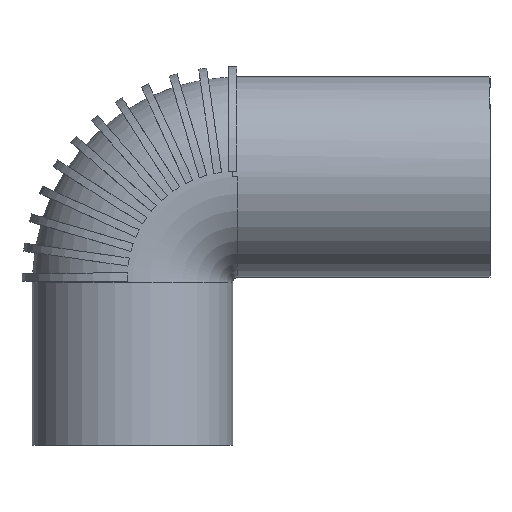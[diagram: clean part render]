
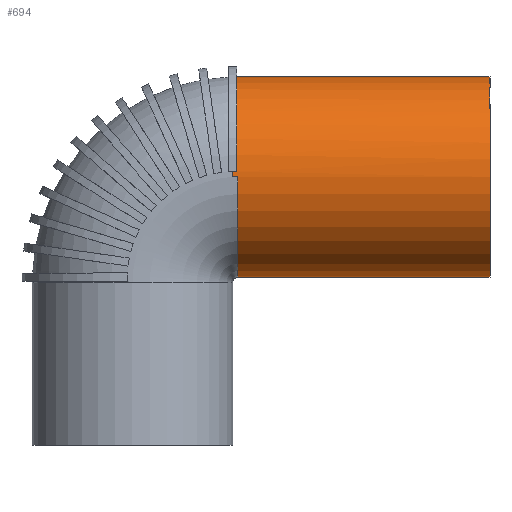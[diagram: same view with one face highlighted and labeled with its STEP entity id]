
A CAD part, top view. The second image highlights one B-rep face of the part: STEP entity #694.
In plain terms, the highlighted cylindrical face has radius 28 mm (diameter 56 mm), a full revolution.
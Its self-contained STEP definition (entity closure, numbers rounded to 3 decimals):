
#12=LINE($,#1410,#14);
#13=LINE($,#1414,#15);
#14=VECTOR($,#848,1.125);
#15=VECTOR($,#851,1.125);
#27=CYLINDRICAL_SURFACE($,#770,28.);
#75=B_SPLINE_CURVE_WITH_KNOTS($,3,(#1898,#1899,#1900,#1901,#1902,#1903),
 .UNSPECIFIED.,.F.,.F.,(4,2,4),(0.,0.139,0.15),
 .UNSPECIFIED.);
#76=B_SPLINE_CURVE_WITH_KNOTS($,3,(#1907,#1908,#1909,#1910,#1911,#1912),
 .UNSPECIFIED.,.F.,.F.,(4,2,4),(-0.011,0.,0.139),
 .UNSPECIFIED.);
#112=FACE_BOUND($,#212,.T.);
#166=FACE_OUTER_BOUND($,#211,.T.);
#211=EDGE_LOOP($,(#525));
#212=EDGE_LOOP($,(#526,#527,#528,#529,#530,#531,#532,#533));
#257=CIRCLE($,#739,28.);
#268=CIRCLE($,#771,28.);
#269=CIRCLE($,#772,28.);
#270=CIRCLE($,#773,28.);
#271=CIRCLE($,#774,28.);
#304=VERTEX_POINT($,#1407);
#305=VERTEX_POINT($,#1409);
#306=VERTEX_POINT($,#1411);
#307=VERTEX_POINT($,#1413);
#328=VERTEX_POINT($,#1893);
#329=VERTEX_POINT($,#1895);
#330=VERTEX_POINT($,#1897);
#331=VERTEX_POINT($,#1904);
#332=VERTEX_POINT($,#1906);
#368=EDGE_CURVE($,#305,#304,#12,.T.);
#370=EDGE_CURVE($,#307,#306,#13,.T.);
#372=EDGE_CURVE($,#306,#305,#257,.T.);
#413=EDGE_CURVE($,#328,#328,#268,.T.);
#414=EDGE_CURVE($,#329,#304,#269,.T.);
#415=EDGE_CURVE($,#329,#330,#75,.T.);
#416=EDGE_CURVE($,#330,#331,#270,.T.);
#417=EDGE_CURVE($,#331,#332,#76,.T.);
#418=EDGE_CURVE($,#307,#332,#271,.T.);
#525=ORIENTED_EDGE($,*,*,#413,.T.);
#526=ORIENTED_EDGE($,*,*,#370,.T.);
#527=ORIENTED_EDGE($,*,*,#372,.T.);
#528=ORIENTED_EDGE($,*,*,#368,.T.);
#529=ORIENTED_EDGE($,*,*,#414,.F.);
#530=ORIENTED_EDGE($,*,*,#415,.T.);
#531=ORIENTED_EDGE($,*,*,#416,.T.);
#532=ORIENTED_EDGE($,*,*,#417,.T.);
#533=ORIENTED_EDGE($,*,*,#418,.F.);
#694=ADVANCED_FACE($,(#166,#112),#27,.T.);
#739=AXIS2_PLACEMENT_3D($,#1417,#856,#857);
#770=AXIS2_PLACEMENT_3D($,#1892,#918,#919);
#771=AXIS2_PLACEMENT_3D($,#1894,#920,#921);
#772=AXIS2_PLACEMENT_3D($,#1896,#922,#923);
#773=AXIS2_PLACEMENT_3D($,#1905,#924,#925);
#774=AXIS2_PLACEMENT_3D($,#1913,#926,#927);
#848=DIRECTION($,(-1.,0.,0.));
#851=DIRECTION($,(1.,0.,0.));
#856=DIRECTION('center_axis',(1.,0.,0.));
#857=DIRECTION('ref_axis',(0.,-1.,0.));
#918=DIRECTION('center_axis',(-1.,0.,0.));
#919=DIRECTION('ref_axis',(0.,-1.,0.));
#920=DIRECTION('center_axis',(-1.,0.,0.));
#921=DIRECTION('ref_axis',(0.,-1.,0.));
#922=DIRECTION('center_axis',(-1.,0.,0.));
#923=DIRECTION('ref_axis',(0.,-1.,0.));
#924=DIRECTION('center_axis',(1.,0.,0.));
#925=DIRECTION('ref_axis',(0.,1.,0.));
#926=DIRECTION('center_axis',(-1.,0.,0.));
#927=DIRECTION('ref_axis',(0.,-1.,0.));
#1407=CARTESIAN_POINT('',(28.,76.5,27.96));
#1409=CARTESIAN_POINT('',(29.125,76.5,27.96));
#1410=CARTESIAN_POINT($,(28.,76.5,27.96));
#1411=CARTESIAN_POINT('',(29.125,76.5,-27.96));
#1413=CARTESIAN_POINT('',(28.,76.5,-27.96));
#1414=CARTESIAN_POINT($,(28.,76.5,-27.96));
#1417=CARTESIAN_POINT('Origin',(29.125,75.,0.));
#1892=CARTESIAN_POINT('Origin',(100.,75.,0.));
#1893=CARTESIAN_POINT('',(100.,103.,0.));
#1894=CARTESIAN_POINT('Origin',(100.,75.,0.));
#1895=CARTESIAN_POINT('',(28.,74.981,28.));
#1896=CARTESIAN_POINT('Origin',(28.,75.,0.));
#1897=CARTESIAN_POINT('',(29.5,75.,28.));
#1898=CARTESIAN_POINT('Ctrl Pts',(28.,74.981,28.));
#1899=CARTESIAN_POINT('Ctrl Pts',(28.464,74.993,28.));
#1900=CARTESIAN_POINT('Ctrl Pts',(28.928,74.999,28.));
#1901=CARTESIAN_POINT('Ctrl Pts',(29.428,75.,28.));
#1902=CARTESIAN_POINT('Ctrl Pts',(29.464,75.,28.));
#1903=CARTESIAN_POINT('Ctrl Pts',(29.5,75.,28.));
#1904=CARTESIAN_POINT('',(29.5,75.,-28.));
#1905=CARTESIAN_POINT('Origin',(29.5,75.,0.));
#1906=CARTESIAN_POINT('',(28.,74.981,-28.));
#1907=CARTESIAN_POINT('Ctrl Pts',(29.5,75.,-28.));
#1908=CARTESIAN_POINT('Ctrl Pts',(29.464,75.,-28.));
#1909=CARTESIAN_POINT('Ctrl Pts',(29.428,75.,-28.));
#1910=CARTESIAN_POINT('Ctrl Pts',(28.928,74.999,-28.));
#1911=CARTESIAN_POINT('Ctrl Pts',(28.464,74.993,-28.));
#1912=CARTESIAN_POINT('Ctrl Pts',(28.,74.981,-28.));
#1913=CARTESIAN_POINT('Origin',(28.,75.,0.));
